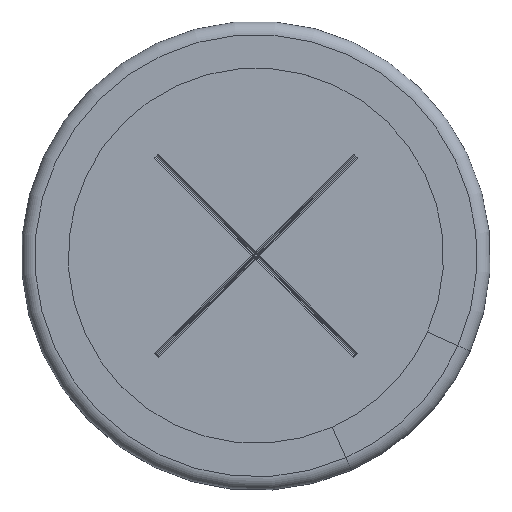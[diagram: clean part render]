
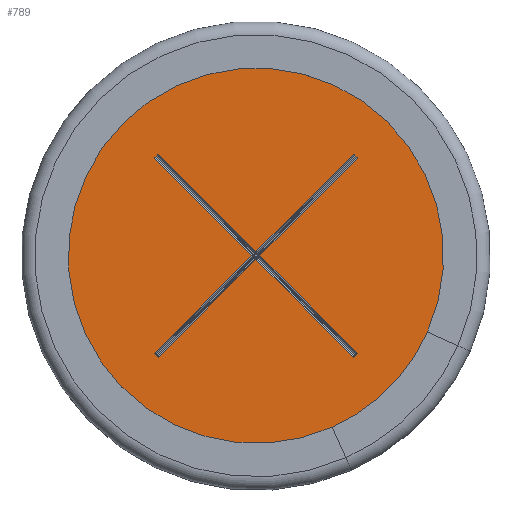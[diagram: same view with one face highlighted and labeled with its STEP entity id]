
A CAD part, top view. The second image highlights one B-rep face of the part: STEP entity #789.
In plain terms, the highlighted planar face has unit normal (0, 0, 1).
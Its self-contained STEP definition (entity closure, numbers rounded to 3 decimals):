
#174=FACE_BOUND('',#1270,.T.);
#175=FACE_BOUND('',#1271,.T.);
#673=PLANE('',#4033);
#789=ADVANCED_FACE('',(#174,#175),#673,.T.);
#1270=EDGE_LOOP('',(#2116));
#1271=EDGE_LOOP('',(#2117,#2118,#2119,#2120,#2121,#2122,#2123,#2124,#2125,
#2126,#2127,#2128));
#1503=LINE('',#5696,#1757);
#1504=LINE('',#5699,#1758);
#1505=LINE('',#5701,#1759);
#1506=LINE('',#5703,#1760);
#1507=LINE('',#5705,#1761);
#1508=LINE('',#5707,#1762);
#1509=LINE('',#5709,#1763);
#1510=LINE('',#5711,#1764);
#1511=LINE('',#5713,#1765);
#1512=LINE('',#5715,#1766);
#1513=LINE('',#5717,#1767);
#1514=LINE('',#5719,#1768);
#1757=VECTOR('',#4576,1.);
#1758=VECTOR('',#4577,1.);
#1759=VECTOR('',#4578,1.);
#1760=VECTOR('',#4579,1.);
#1761=VECTOR('',#4580,1.);
#1762=VECTOR('',#4581,1.);
#1763=VECTOR('',#4582,1.);
#1764=VECTOR('',#4583,1.);
#1765=VECTOR('',#4584,1.);
#1766=VECTOR('',#4585,1.);
#1767=VECTOR('',#4586,1.);
#1768=VECTOR('',#4587,1.);
#2116=ORIENTED_EDGE('',*,*,#3354,.F.);
#2117=ORIENTED_EDGE('',*,*,#3355,.T.);
#2118=ORIENTED_EDGE('',*,*,#3356,.T.);
#2119=ORIENTED_EDGE('',*,*,#3357,.T.);
#2120=ORIENTED_EDGE('',*,*,#3358,.F.);
#2121=ORIENTED_EDGE('',*,*,#3359,.T.);
#2122=ORIENTED_EDGE('',*,*,#3360,.T.);
#2123=ORIENTED_EDGE('',*,*,#3361,.F.);
#2124=ORIENTED_EDGE('',*,*,#3362,.T.);
#2125=ORIENTED_EDGE('',*,*,#3363,.T.);
#2126=ORIENTED_EDGE('',*,*,#3364,.T.);
#2127=ORIENTED_EDGE('',*,*,#3365,.T.);
#2128=ORIENTED_EDGE('',*,*,#3366,.T.);
#3024=VERTEX_POINT('',#5695);
#3025=VERTEX_POINT('',#5697);
#3026=VERTEX_POINT('',#5698);
#3027=VERTEX_POINT('',#5700);
#3028=VERTEX_POINT('',#5702);
#3029=VERTEX_POINT('',#5704);
#3030=VERTEX_POINT('',#5706);
#3031=VERTEX_POINT('',#5708);
#3032=VERTEX_POINT('',#5710);
#3033=VERTEX_POINT('',#5712);
#3034=VERTEX_POINT('',#5714);
#3035=VERTEX_POINT('',#5716);
#3036=VERTEX_POINT('',#5718);
#3354=EDGE_CURVE('',#3024,#3024,#3812,.T.);
#3355=EDGE_CURVE('',#3025,#3026,#1503,.T.);
#3356=EDGE_CURVE('',#3026,#3027,#1504,.T.);
#3357=EDGE_CURVE('',#3027,#3028,#1505,.T.);
#3358=EDGE_CURVE('',#3029,#3028,#1506,.T.);
#3359=EDGE_CURVE('',#3029,#3030,#1507,.T.);
#3360=EDGE_CURVE('',#3030,#3031,#1508,.T.);
#3361=EDGE_CURVE('',#3032,#3031,#1509,.T.);
#3362=EDGE_CURVE('',#3032,#3033,#1510,.T.);
#3363=EDGE_CURVE('',#3033,#3034,#1511,.T.);
#3364=EDGE_CURVE('',#3034,#3035,#1512,.T.);
#3365=EDGE_CURVE('',#3035,#3036,#1513,.T.);
#3366=EDGE_CURVE('',#3036,#3025,#1514,.T.);
#3812=CIRCLE('',#4032,16.5);
#4032=AXIS2_PLACEMENT_3D('',#5694,#4574,#4575);
#4033=AXIS2_PLACEMENT_3D('',#5720,#4588,#4589);
#4574=DIRECTION('',(0.,0.,-1.));
#4575=DIRECTION('',(-1.,0.,0.));
#4576=DIRECTION('',(0.707,-0.707,0.));
#4577=DIRECTION('',(-0.707,-0.707,0.));
#4578=DIRECTION('',(0.707,-0.707,0.));
#4579=DIRECTION('',(0.707,0.707,0.));
#4580=DIRECTION('',(-0.707,0.707,0.));
#4581=DIRECTION('',(-0.707,-0.707,0.));
#4582=DIRECTION('',(0.707,-0.707,0.));
#4583=DIRECTION('',(0.707,0.707,0.));
#4584=DIRECTION('',(-0.707,0.707,0.));
#4585=DIRECTION('',(0.707,0.707,0.));
#4586=DIRECTION('',(0.707,-0.707,0.));
#4587=DIRECTION('',(0.707,0.707,0.));
#4588=DIRECTION('',(0.,0.,1.));
#4589=DIRECTION('',(1.,0.,0.));
#5694=CARTESIAN_POINT('',(0.,0.,14.8));
#5695=CARTESIAN_POINT('',(-16.5,0.,14.8));
#5696=CARTESIAN_POINT('',(7.319,7.531,14.8));
#5697=CARTESIAN_POINT('',(7.275,7.574,14.8));
#5698=CARTESIAN_POINT('',(7.574,7.275,14.8));
#5699=CARTESIAN_POINT('',(-8.1,-8.4,14.8));
#5700=CARTESIAN_POINT('',(0.3,0.,14.8));
#5701=CARTESIAN_POINT('',(-8.1,8.4,14.8));
#5702=CARTESIAN_POINT('',(7.574,-7.275,14.8));
#5703=CARTESIAN_POINT('',(7.531,-7.319,14.8));
#5704=CARTESIAN_POINT('',(7.275,-7.574,14.8));
#5705=CARTESIAN_POINT('',(-8.4,8.1,14.8));
#5706=CARTESIAN_POINT('',(0.,-0.3,14.8));
#5707=CARTESIAN_POINT('',(-8.1,-8.4,14.8));
#5708=CARTESIAN_POINT('',(-7.275,-7.574,14.8));
#5709=CARTESIAN_POINT('',(-7.531,-7.319,14.8));
#5710=CARTESIAN_POINT('',(-7.574,-7.275,14.8));
#5711=CARTESIAN_POINT('',(-8.4,-8.1,14.8));
#5712=CARTESIAN_POINT('',(-0.3,0.,14.8));
#5713=CARTESIAN_POINT('',(-8.4,8.1,14.8));
#5714=CARTESIAN_POINT('',(-7.574,7.275,14.8));
#5715=CARTESIAN_POINT('',(-7.319,7.531,14.8));
#5716=CARTESIAN_POINT('',(-7.275,7.574,14.8));
#5717=CARTESIAN_POINT('',(-8.1,8.4,14.8));
#5718=CARTESIAN_POINT('',(0.,0.3,14.8));
#5719=CARTESIAN_POINT('',(-8.4,-8.1,14.8));
#5720=CARTESIAN_POINT('',(-16.5,0.,14.8));
